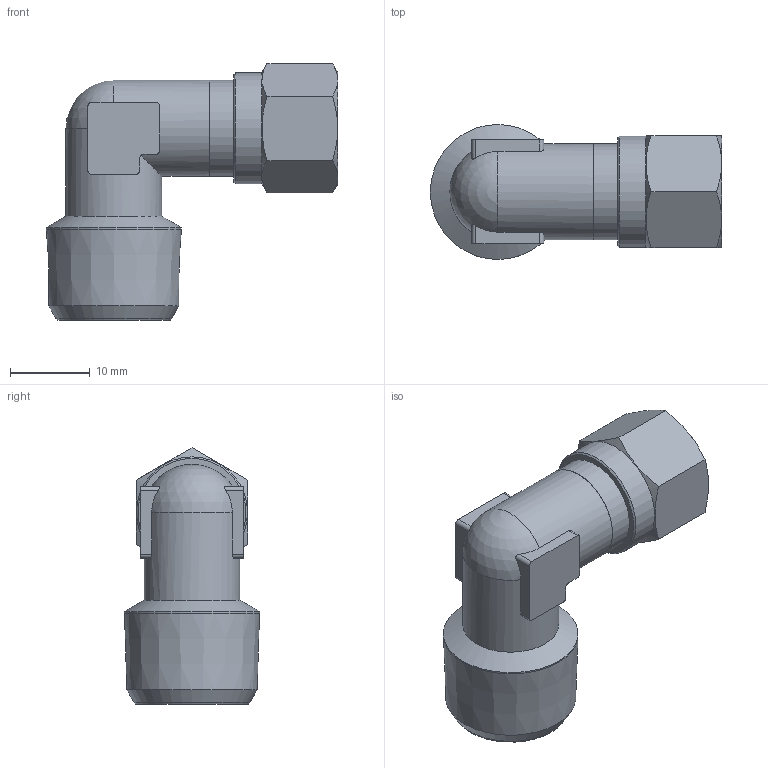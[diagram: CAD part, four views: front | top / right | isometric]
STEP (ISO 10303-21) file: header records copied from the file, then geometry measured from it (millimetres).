
FILE_DESCRIPTION(('Bauteilbeschreibung','HiCAD-Model','HiCAD-STEP-TRANSLATION','Bauteilbeschreibung'),'2;1');
FILE_NAME('B:/ABGLEICH/ZEICHNUNGEN/STEP FÜR INTERNET/STEP/205/92806_205_8_3-8.STP','2011-11-24T14:44:46+00:00',('Konstrukteur'),('Konstrukteur Firma GmbH'),' HiCAD neXt 2008, Step 3.1.1401.2J ','HiCAD neXt 2008','confidential');
FILE_SCHEMA(('AUTOMOTIVE_DESIGN { 1 2 10303 214 0 1 1 1 }'));
Length unit declared in the file: millimetre
Products named in the file (8): A2806_205_8_3_8; A2806; A28060; R 3_8; DIN 13_M12X1; A6803; A68030; DIN0130M12X1
Assembly tree (7 placements, depth 3):
  A2806_205_8_3_8
    A2806
    A28060
      R 3_8
      DIN 13_M12X1
    A6803
    A68030
      DIN0130M12X1
Bounding box: 36.45 x 16.89 x 32.08 mm (x, y, z)
Volume: 4899.9 mm3; surface area: 6869.3 mm2
Topology: 5 solids, 5 shells, 85 faces, 214 edges, 140 vertices
Faces by surface type: plane 32, cylinder 27, cone 25, sphere 1
Full cylindrical faces by diameter (mm): 6 x1, 8 x3, 10.773 x3, 11 x1, 12 x5, 13.9 x1, 16.893 x1
Entity records: 7310 total; most frequent: CARTESIAN_POINT 4629, DIRECTION 390, ORIENTED_EDGE 322, AXIS2_PLACEMENT_3D 170, EDGE_CURVE 161, COLOUR_RGB 144, PRESENTATION_STYLE_ASSIGNMENT 144, CURVE_STYLE 139
